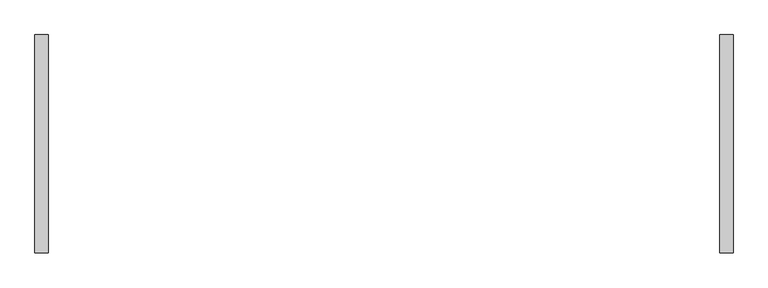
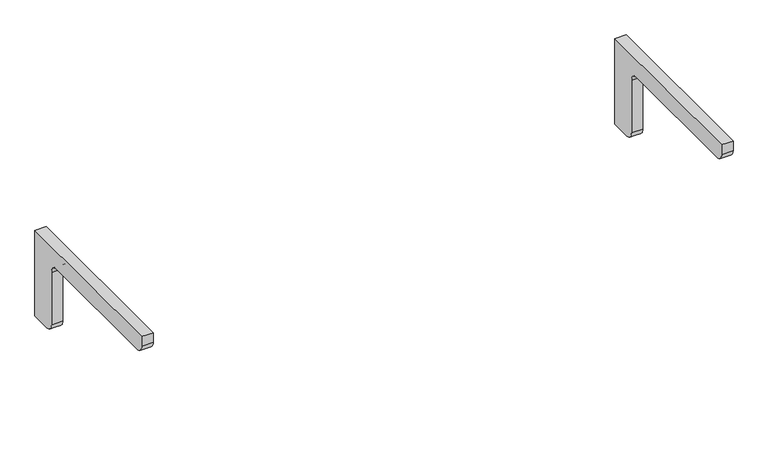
"""IFC4 building model written with IfcOpenShell, lengths in millimetres: furniture geometry."""

from ifc_helpers import new_model, si_unit, point, frame, frame_2d, origin, place, context, project, spatial, polyline, circle_curve, trimmed, segment, composite_curve, outline, extrude, source, transform, mapped, element, save


def furniture_da530c35(model_context):
    return source(origin(), model_context, "Body", "SweptSolid", [
        extrude(outline(composite_curve([segment(polyline([(177.8, 882.65), (177.8, 603.25), (114.3, 603.25)]), True, "CONTINUOUS"), segment(trimmed(circle_curve(frame_2d((114.3, 628.65)), 25.4), [point((114.3, 603.25))], [point((88.9, 628.65))], False, "CARTESIAN"), True, "CONTINUOUS"), segment(polyline([(88.9, 628.65), (88.9, 800.1)]), True, "CONTINUOUS"), segment(trimmed(circle_curve(frame_2d((63.5, 800.1)), 25.4), [point((88.9, 800.1))], [point((63.5, 825.5))], True, "CARTESIAN"), True, "CONTINUOUS"), segment(polyline([(63.5, 825.5), (-368.3, 825.5)]), True, "CONTINUOUS"), segment(trimmed(circle_curve(frame_2d((-368.3, 850.9)), 25.4), [point((-368.3, 825.5))], [point((-393.7, 850.9))], False, "CARTESIAN"), True, "CONTINUOUS"), segment(polyline([(-393.7, 850.9), (-393.7, 882.65), (177.8, 882.65)]), True, "CONTINUOUS")], self_intersect=False)), frame((877.8875, 0.0, 0.0), z_axis=(1.0, 0.0, 0.0), x_axis=(0.0, 1.0, 0.0)), (0.0, 0.0, 1.0), 34.925),
        extrude(outline(composite_curve([segment(polyline([(-393.7, 850.9), (-393.7, 882.65), (177.8, 882.65), (177.8, 603.25), (114.3, 603.25)]), True, "CONTINUOUS"), segment(trimmed(circle_curve(frame_2d((114.3, 628.65)), 25.4), [point((114.3, 603.25))], [point((88.9, 628.65))], False, "CARTESIAN"), True, "CONTINUOUS"), segment(polyline([(88.9, 628.65), (88.9, 800.1)]), True, "CONTINUOUS"), segment(trimmed(circle_curve(frame_2d((63.5, 800.1)), 25.4), [point((88.9, 800.1))], [point((63.5, 825.5))], True, "CARTESIAN"), True, "CONTINUOUS"), segment(polyline([(63.5, 825.5), (-368.3, 825.5)]), True, "CONTINUOUS"), segment(trimmed(circle_curve(frame_2d((-368.3, 850.9)), 25.4), [point((-368.3, 825.5))], [point((-393.7, 850.9))], False, "CARTESIAN"), True, "CONTINUOUS")], self_intersect=False)), frame((-912.8125, 0.0, 0.0), z_axis=(1.0, 0.0, 0.0), x_axis=(0.0, 1.0, 0.0)), (0.0, 0.0, 1.0), 34.925),
    ])


if __name__ == "__main__":
    model = new_model("IFC4")
    model_context = context("Model", 3, world=origin())
    ifc_project = project(units=[si_unit("LENGTHUNIT", "METRE", prefix="MILLI")], contexts=[model_context])
    site = spatial("IfcSite", under=ifc_project)
    building = spatial("IfcBuilding", under=site)
    placement = place(None, origin())
    furniture_shape = furniture_da530c35(model_context)
    element("IfcFurniture", 1, ObjectType="HermanMiller_CoStruc_C2140H_WorkSurfaceSupport_Heavy Duty : 11\"H x 24\"D x 72\"W", at=placement, inside=building, context=model_context, shape_type="MappedRepresentation", body=[
        mapped(furniture_shape, transform((0.0, 0.0, 0.0), x_axis=(1.0, 0.0, 0.0), y_axis=(0.0, 1.0, 0.0), z_axis=(0.0, 0.0, 1.0))),
    ])
    save(model, "model.ifc")
